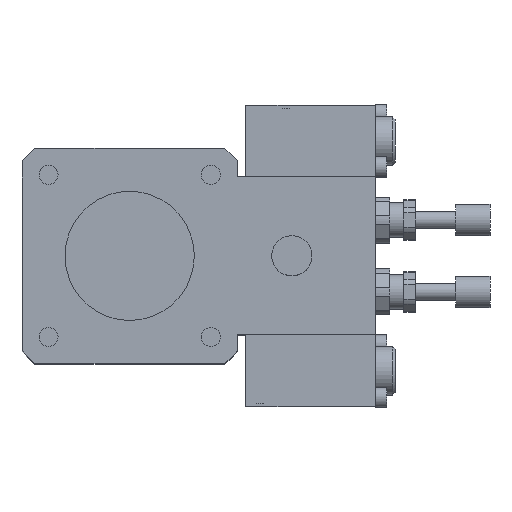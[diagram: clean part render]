
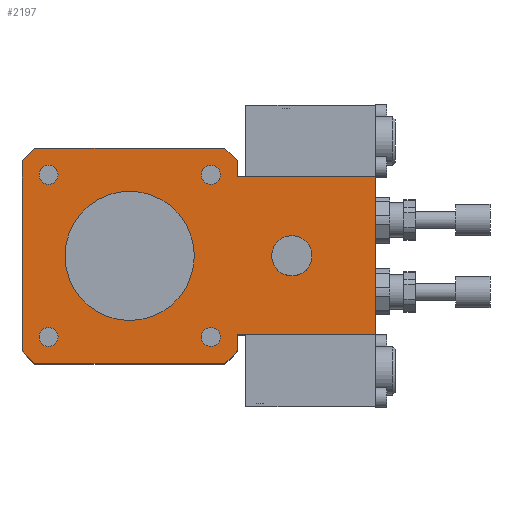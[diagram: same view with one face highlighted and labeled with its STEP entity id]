
A CAD part, top view. The second image highlights one B-rep face of the part: STEP entity #2197.
In plain terms, the highlighted planar face has unit normal (0, 0, 1).
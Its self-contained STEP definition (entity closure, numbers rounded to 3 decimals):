
#133=CARTESIAN_POINT('',(-28.25,24.927,146.0));
#134=VERTEX_POINT('',#133);
#135=CARTESIAN_POINT('',(-28.25,28.25,146.0));
#136=DIRECTION('',(0.0,0.0,-1.0));
#137=DIRECTION('',(0.0,-1.0,0.0));
#138=AXIS2_PLACEMENT_3D('',#135,#136,#137);
#139=CIRCLE('',#138,3.324);
#140=EDGE_CURVE('',#134,#134,#139,.T.);
#191=CARTESIAN_POINT('',(24.927,28.25,146.0));
#192=VERTEX_POINT('',#191);
#193=CARTESIAN_POINT('',(28.25,28.25,146.0));
#194=DIRECTION('',(0.0,0.0,-1.0));
#195=DIRECTION('',(-1.0,0.0,0.0));
#196=AXIS2_PLACEMENT_3D('',#193,#194,#195);
#197=CIRCLE('',#196,3.324);
#198=EDGE_CURVE('',#192,#192,#197,.T.);
#249=CARTESIAN_POINT('',(28.25,-24.927,146.0));
#250=VERTEX_POINT('',#249);
#251=CARTESIAN_POINT('',(28.25,-28.25,146.0));
#252=DIRECTION('',(0.0,0.0,-1.0));
#253=DIRECTION('',(0.0,1.0,0.0));
#254=AXIS2_PLACEMENT_3D('',#251,#252,#253);
#255=CIRCLE('',#254,3.324);
#256=EDGE_CURVE('',#250,#250,#255,.T.);
#307=CARTESIAN_POINT('',(-24.927,-28.25,146.0));
#308=VERTEX_POINT('',#307);
#309=CARTESIAN_POINT('',(-28.25,-28.25,146.0));
#310=DIRECTION('',(0.0,0.0,-1.0));
#311=DIRECTION('',(1.0,0.0,0.0));
#312=AXIS2_PLACEMENT_3D('',#309,#310,#311);
#313=CIRCLE('',#312,3.324);
#314=EDGE_CURVE('',#308,#308,#313,.T.);
#791=CARTESIAN_POINT('',(50.,0.0,146.0));
#792=VERTEX_POINT('',#791);
#793=CARTESIAN_POINT('',(56.5,0.0,146.0));
#794=DIRECTION('',(0.0,0.0,-1.0));
#795=DIRECTION('',(-1.0,0.0,0.0));
#796=AXIS2_PLACEMENT_3D('',#793,#794,#795);
#797=CIRCLE('',#796,6.5);
#798=EDGE_CURVE('',#792,#792,#797,.T.);
#1418=CARTESIAN_POINT('',(85.5,27.5,146.0));
#1419=VERTEX_POINT('',#1418);
#1444=CARTESIAN_POINT('',(37.5,27.5,146.0));
#1445=VERTEX_POINT('',#1444);
#1452=CARTESIAN_POINT('',(37.5,27.5,146.0));
#1453=DIRECTION('',(1.0,0.0,0.0));
#1454=VECTOR('',#1453,48.);
#1455=LINE('',#1452,#1454);
#1456=EDGE_CURVE('',#1445,#1419,#1455,.T.);
#1512=CARTESIAN_POINT('',(85.5,-27.5,146.0));
#1513=VERTEX_POINT('',#1512);
#1520=CARTESIAN_POINT('',(37.5,-27.5,146.0));
#1521=VERTEX_POINT('',#1520);
#1522=CARTESIAN_POINT('',(37.5,-27.5,146.0));
#1523=DIRECTION('',(1.0,0.0,0.0));
#1524=VECTOR('',#1523,48.);
#1525=LINE('',#1522,#1524);
#1526=EDGE_CURVE('',#1521,#1513,#1525,.T.);
#1581=CARTESIAN_POINT('',(85.5,-27.5,146.0));
#1582=DIRECTION('',(0.0,1.0,0.0));
#1583=VECTOR('',#1582,55.0);
#1584=LINE('',#1581,#1583);
#1585=EDGE_CURVE('',#1513,#1419,#1584,.T.);
#1604=CARTESIAN_POINT('',(37.5,-33.072,146.0));
#1605=VERTEX_POINT('',#1604);
#1606=CARTESIAN_POINT('',(37.5,-27.5,146.0));
#1607=DIRECTION('',(0.0,-1.0,0.0));
#1608=VECTOR('',#1607,5.572);
#1609=LINE('',#1606,#1608);
#1610=EDGE_CURVE('',#1521,#1605,#1609,.T.);
#1643=CARTESIAN_POINT('',(37.5,33.072,146.0));
#1644=VERTEX_POINT('',#1643);
#1651=CARTESIAN_POINT('',(37.5,33.072,146.0));
#1652=DIRECTION('',(0.0,-1.0,0.0));
#1653=VECTOR('',#1652,5.572);
#1654=LINE('',#1651,#1653);
#1655=EDGE_CURVE('',#1644,#1445,#1654,.T.);
#1682=CARTESIAN_POINT('',(-22.5,0.0,146.0));
#1683=VERTEX_POINT('',#1682);
#1684=CARTESIAN_POINT('',(0.0,0.0,146.0));
#1685=DIRECTION('',(0.0,0.0,-1.0));
#1686=DIRECTION('',(-1.0,0.0,0.0));
#1687=AXIS2_PLACEMENT_3D('',#1684,#1685,#1686);
#1688=CIRCLE('',#1687,22.5);
#1689=EDGE_CURVE('',#1683,#1683,#1688,.T.);
#1997=CARTESIAN_POINT('',(33.072,37.5,146.0));
#1998=VERTEX_POINT('',#1997);
#1999=CARTESIAN_POINT('',(0.,0.,146.0));
#2000=DIRECTION('',(0.,0.,-1.0));
#2001=DIRECTION('',(-0.75,-0.661,0.));
#2002=AXIS2_PLACEMENT_3D('',#1999,#2000,#2001);
#2003=CIRCLE('',#2002,50.0);
#2004=EDGE_CURVE('',#1998,#1644,#2003,.T.);
#2022=CARTESIAN_POINT('',(33.072,-37.5,146.0));
#2023=VERTEX_POINT('',#2022);
#2024=CARTESIAN_POINT('',(0.,0.,146.0));
#2025=DIRECTION('',(0.,0.,-1.));
#2026=DIRECTION('',(-0.661,0.75,0.));
#2027=AXIS2_PLACEMENT_3D('',#2024,#2025,#2026);
#2028=CIRCLE('',#2027,50.);
#2029=EDGE_CURVE('',#1605,#2023,#2028,.T.);
#2047=CARTESIAN_POINT('',(-33.072,-37.5,146.0));
#2048=VERTEX_POINT('',#2047);
#2049=CARTESIAN_POINT('',(33.072,-37.5,146.0));
#2050=DIRECTION('',(-1.0,0.0,0.0));
#2051=VECTOR('',#2050,66.144);
#2052=LINE('',#2049,#2051);
#2053=EDGE_CURVE('',#2023,#2048,#2052,.T.);
#2074=CARTESIAN_POINT('',(-37.5,-33.072,146.0));
#2075=VERTEX_POINT('',#2074);
#2076=CARTESIAN_POINT('',(0.,0.,146.0));
#2077=DIRECTION('',(0.,0.,-1.0));
#2078=DIRECTION('',(0.75,0.661,0.));
#2079=AXIS2_PLACEMENT_3D('',#2076,#2077,#2078);
#2080=CIRCLE('',#2079,50.);
#2081=EDGE_CURVE('',#2048,#2075,#2080,.T.);
#2099=CARTESIAN_POINT('',(-37.5,33.072,146.0));
#2100=VERTEX_POINT('',#2099);
#2101=CARTESIAN_POINT('',(-37.5,-33.072,146.0));
#2102=DIRECTION('',(0.0,1.0,0.0));
#2103=VECTOR('',#2102,66.144);
#2104=LINE('',#2101,#2103);
#2105=EDGE_CURVE('',#2075,#2100,#2104,.T.);
#2123=CARTESIAN_POINT('',(-33.072,37.5,146.0));
#2124=VERTEX_POINT('',#2123);
#2125=CARTESIAN_POINT('',(0.,0.,146.0));
#2126=DIRECTION('',(0.,0.,-1.));
#2127=DIRECTION('',(0.661,-0.75,0.));
#2128=AXIS2_PLACEMENT_3D('',#2125,#2126,#2127);
#2129=CIRCLE('',#2128,50.0);
#2130=EDGE_CURVE('',#2100,#2124,#2129,.T.);
#2148=CARTESIAN_POINT('',(-33.072,37.5,146.0));
#2149=DIRECTION('',(1.0,0.0,0.0));
#2150=VECTOR('',#2149,66.144);
#2151=LINE('',#2148,#2150);
#2152=EDGE_CURVE('',#2124,#1998,#2151,.T.);
#2160=CARTESIAN_POINT('',(0.,0.,146.0));
#2161=DIRECTION('',(0.0,0.0,1.0));
#2162=DIRECTION('',(1.0,0.0,0.0));
#2163=AXIS2_PLACEMENT_3D('',#2160,#2161,#2162);
#2164=PLANE('',#2163);
#2165=ORIENTED_EDGE('',*,*,#2004,.F.);
#2166=ORIENTED_EDGE('',*,*,#2152,.F.);
#2167=ORIENTED_EDGE('',*,*,#2130,.F.);
#2168=ORIENTED_EDGE('',*,*,#2105,.F.);
#2169=ORIENTED_EDGE('',*,*,#2081,.F.);
#2170=ORIENTED_EDGE('',*,*,#2053,.F.);
#2171=ORIENTED_EDGE('',*,*,#2029,.F.);
#2172=ORIENTED_EDGE('',*,*,#1610,.F.);
#2173=ORIENTED_EDGE('',*,*,#1526,.T.);
#2174=ORIENTED_EDGE('',*,*,#1585,.T.);
#2175=ORIENTED_EDGE('',*,*,#1456,.F.);
#2176=ORIENTED_EDGE('',*,*,#1655,.F.);
#2177=EDGE_LOOP('',(#2165,#2166,#2167,#2168,#2169,#2170,#2171,#2172,#2173,#2174,#2175,#2176));
#2178=FACE_OUTER_BOUND('',#2177,.T.);
#2179=ORIENTED_EDGE('',*,*,#140,.T.);
#2180=EDGE_LOOP('',(#2179));
#2181=FACE_BOUND('',#2180,.T.);
#2182=ORIENTED_EDGE('',*,*,#198,.T.);
#2183=EDGE_LOOP('',(#2182));
#2184=FACE_BOUND('',#2183,.T.);
#2185=ORIENTED_EDGE('',*,*,#256,.T.);
#2186=EDGE_LOOP('',(#2185));
#2187=FACE_BOUND('',#2186,.T.);
#2188=ORIENTED_EDGE('',*,*,#314,.T.);
#2189=EDGE_LOOP('',(#2188));
#2190=FACE_BOUND('',#2189,.T.);
#2191=ORIENTED_EDGE('',*,*,#798,.T.);
#2192=EDGE_LOOP('',(#2191));
#2193=FACE_BOUND('',#2192,.T.);
#2194=ORIENTED_EDGE('',*,*,#1689,.T.);
#2195=EDGE_LOOP('',(#2194));
#2196=FACE_BOUND('',#2195,.T.);
#2197=ADVANCED_FACE('',(#2178,#2181,#2184,#2187,#2190,#2193,#2196),#2164,.T.);
